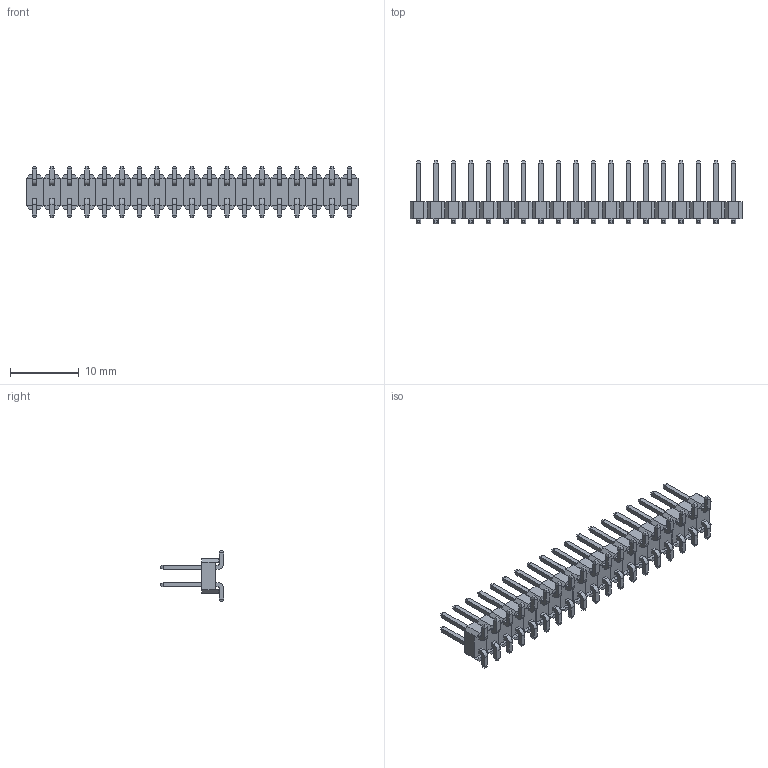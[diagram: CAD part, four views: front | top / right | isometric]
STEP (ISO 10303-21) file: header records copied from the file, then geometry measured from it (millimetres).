
FILE_DESCRIPTION(/* description */ (''),/* implementation_level */ '2;1');
FILE_NAME(/* name */ 'E:\工作文件\排针排母\PZ排针\2.54\双排\S-贴片\塑高2.5\PZ254-2-N-S-2.5-XX (2.54 双排 贴片 排针-HCTL)\PZ254-2-19-S-2.5-XX (2.54 双排 贴片 排针-HCTL).stp',/* time_stamp */ '2023-12-20T17:04:40+08:00',/* author */ ('admin'),/* organization */ (''),/* preprocessor_version */ 'ST-DEVELOPER v18.1',/* originating_system */ 'Autodesk Inventor 2021',/* authorisation */ '');
FILE_SCHEMA (('AUTOMOTIVE_DESIGN { 1 0 10303 214 3 1 1 }'));
Length unit declared in the file: millimetre
Products named in the file (1): PZ254-2-1-S-2.5-XX (2.54 双排 贴片 
排针-HCTL)
Bounding box: 48.22 x 9.2 x 7.5 mm (x, y, z)
Volume: 618.2 mm3; surface area: 2234.1 mm2
Topology: 37 solids, 37 shells, 1286 faces, 3028 edges, 1892 vertices
Faces by surface type: plane 1210, cylinder 76
Entity records: 35729 total; most frequent: CARTESIAN_POINT 6207, ORIENTED_EDGE 6056, DIRECTION 5754, EDGE_CURVE 3028, LINE 2876, VECTOR 2876, VERTEX_POINT 1892, AXIS2_PLACEMENT_3D 1439
